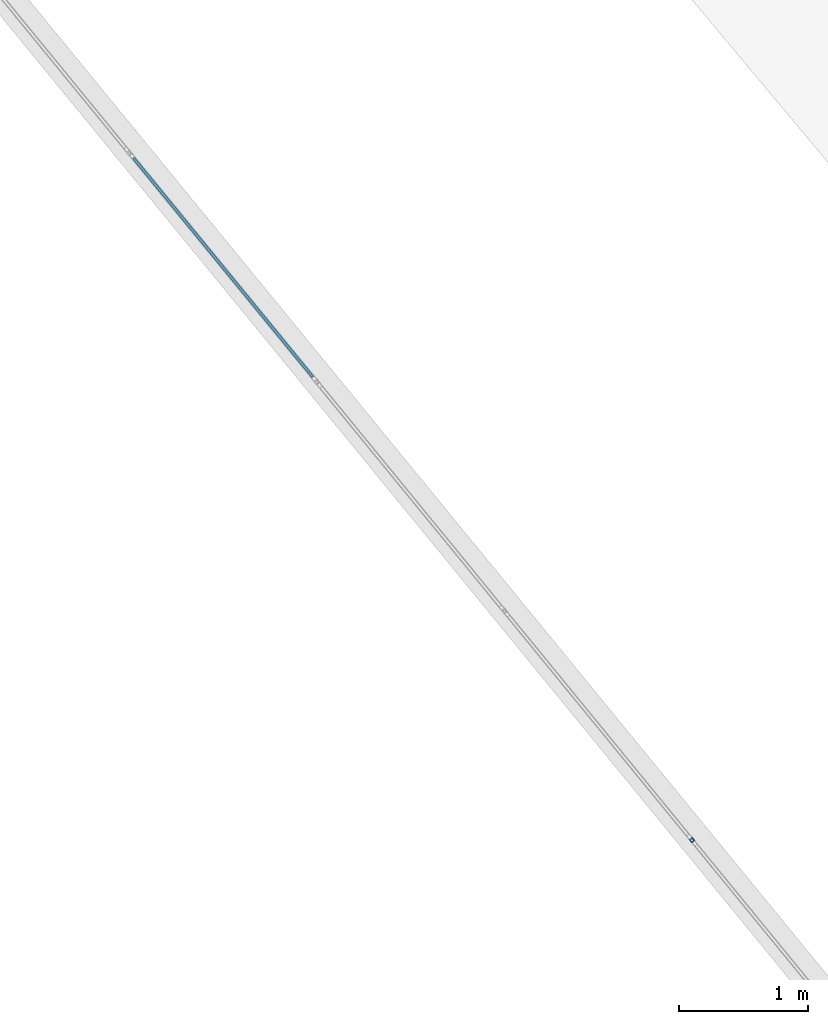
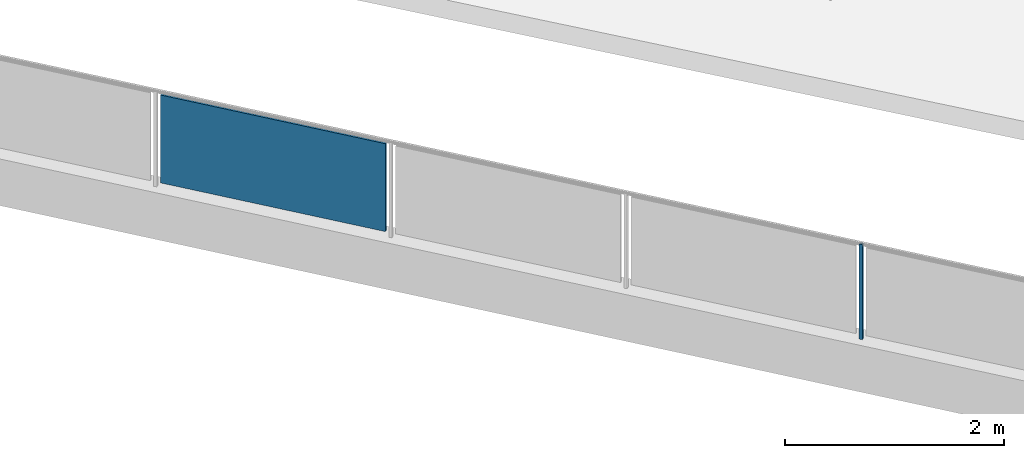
# One storey, part 15 of 67: 2 building element parts, 1 element without a shape of its own.
"""IFC4 building model written with IfcOpenShell, lengths in metres."""

from ifc_helpers import new_model, entity, si_unit, converted_unit, derived_unit, direction, frame, origin_with_axes, place, context, subcontext, project, spatial, polygons, material, type_object, element, aggregate, save


model = new_model("IFC4")

# Units and contexts
model_context = context("Model", 3, precision=1e-05, world=origin_with_axes(), true_north=direction((0.0, 1.0)))
body_context = subcontext(model_context, "Body", "Model", "MODEL_VIEW")
ifc_project = project(units=[si_unit("LENGTHUNIT", "METRE"), si_unit("AREAUNIT", "SQUARE_METRE"), si_unit("VOLUMEUNIT", "CUBIC_METRE"), converted_unit("PLANEANGLEUNIT", "DEGREE", entity("IfcPlaneAngleMeasure", 0.0174532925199), si_unit("PLANEANGLEUNIT", "RADIAN"), dimensions=[0, 0, 0, 0, 0, 0, 0]), converted_unit("TIMEUNIT", "Year", entity("IfcTimeMeasure", 31556926.0), si_unit("TIMEUNIT", "SECOND"), dimensions=[0, 0, 1, 0, 0, 0, 0]), si_unit("MASSUNIT", "GRAM", prefix="KILO"), si_unit("THERMODYNAMICTEMPERATUREUNIT", "DEGREE_CELSIUS"), si_unit("LUMINOUSINTENSITYUNIT", "LUMEN"), si_unit("ENERGYUNIT", "JOULE", prefix="MEGA"), derived_unit("THERMALCONDUCTANCEUNIT", [(si_unit("POWERUNIT", "WATT"), 1), (si_unit("LENGTHUNIT", "METRE"), -1), (si_unit("THERMODYNAMICTEMPERATUREUNIT", "KELVIN"), -1)]), derived_unit("SPECIFICHEATCAPACITYUNIT", [(si_unit("ENERGYUNIT", "JOULE"), 1), (si_unit("MASSUNIT", "GRAM", prefix="KILO"), -1), (si_unit("THERMODYNAMICTEMPERATUREUNIT", "KELVIN"), -1)]), derived_unit("MASSDENSITYUNIT", [(si_unit("MASSUNIT", "GRAM", prefix="KILO"), 1), (si_unit("VOLUMEUNIT", "CUBIC_METRE"), -1)])], contexts=[model_context])

# Site, building, storey
site_placement = place(None, frame((-0.00153261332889, -0.00661245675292, 0.0), z_axis=(0.0, 0.0, 1.0), x_axis=(1.0, 0.0, 0.0)))
site = spatial("IfcSite", under=ifc_project, at=site_placement, Name="Site", CompositionType="ELEMENT")
building_placement = place(site_placement, origin_with_axes())
building = spatial("IfcBuilding", under=site, at=building_placement, Name="Building", CompositionType="ELEMENT")
storey_placement = place(building_placement, frame((0.0, 0.0, -0.22), z_axis=(0.0, 0.0, 1.0), x_axis=(1.0, 0.0, 0.0)))
storey = spatial("IfcBuildingStorey", under=building, at=storey_placement, Name="EG", CompositionType="ELEMENT", Elevation=-0.22)

# Railing, building element parts
railing_type = type_object("IfcRailingType", Name="Geländerart", PredefinedType="NOTDEFINED")
railing_placement = place(storey_placement, frame((-12.1608341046, 23.557810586, 0.523948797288), z_axis=(0.0, 0.0, 1.0), x_axis=(1.0, 0.0, 0.0)))
railing = element("IfcRailing", 1, at=railing_placement, inside=storey, type_object=railing_type, Name="Geländer - 001", PredefinedType="NOTDEFINED")
ifc_material_1 = material(Name="Zaun")
building_element_part_1_placement = place(railing_placement, origin_with_axes())
building_element_part_1 = element("IfcBuildingElementPart", 2, at=building_element_part_1_placement, material=ifc_material_1, Name="Zaun", PredefinedType="NOTDEFINED", context=body_context, shape_type="Tessellation", body=[
    polygons([(6.33475571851, -16.2595765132, 0.05), (4.94383989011, -14.5606796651, 0.05), (4.94383989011, -14.5606796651, 1.03), (6.33475571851, -16.2595765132, 1.03), (4.92836480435, -14.5733493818, 0.05), (6.31928063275, -16.2722462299, 0.05), (4.92836480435, -14.5733493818, 1.03), (6.31928063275, -16.2722462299, 1.03)], [[[1, 2, 3, 4]], [[5, 2, 1, 6]], [[7, 3, 2, 5]], [[4, 3, 7, 8]], [[1, 4, 8, 6]], [[7, 5, 6, 8]]], closed=True),
])
ifc_material_2 = material(Name="Aluminium")
building_element_part_2_placement = place(railing_placement, origin_with_axes())
building_element_part_2 = element("IfcBuildingElementPart", 3, at=building_element_part_2_placement, material=ifc_material_2, Name="Aluminium", PredefinedType="NOTDEFINED", context=body_context, shape_type="Tessellation", body=[
    polygons([(9.26511726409, -19.8782522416, 0.0), (9.28832989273, -19.8592476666, 0.0), (9.28832989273, -19.8592476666, 1.06), (9.26511726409, -19.8782522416, 1.06), (9.24611268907, -19.855039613, 0.0), (9.26932531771, -19.836035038, 0.0), (9.26581860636, -19.871216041, 0.0), (9.28129369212, -19.8585463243, 0.0), (9.26862397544, -19.8430712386, 0.0), (9.25314888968, -19.8557409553, 0.0), (9.26932531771, -19.836035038, 1.06), (9.24611268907, -19.855039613, 1.06), (9.26581860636, -19.871216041, 1.06), (9.25314888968, -19.8557409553, 1.06), (9.26862397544, -19.8430712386, 1.06), (9.28129369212, -19.8585463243, 1.06)], [[[1, 2, 3, 4]], [[1, 5, 6, 2], [7, 8, 9, 10]], [[2, 6, 11, 3]], [[4, 3, 11, 12], [13, 14, 15, 16]], [[5, 1, 4, 12]], [[6, 5, 12, 11]], [[8, 7, 13, 16]], [[9, 8, 16, 15]], [[10, 9, 15, 14]], [[7, 10, 14, 13]]], closed=True),
])
aggregate(railing, [building_element_part_1, building_element_part_2])

save(model, "model.ifc")
